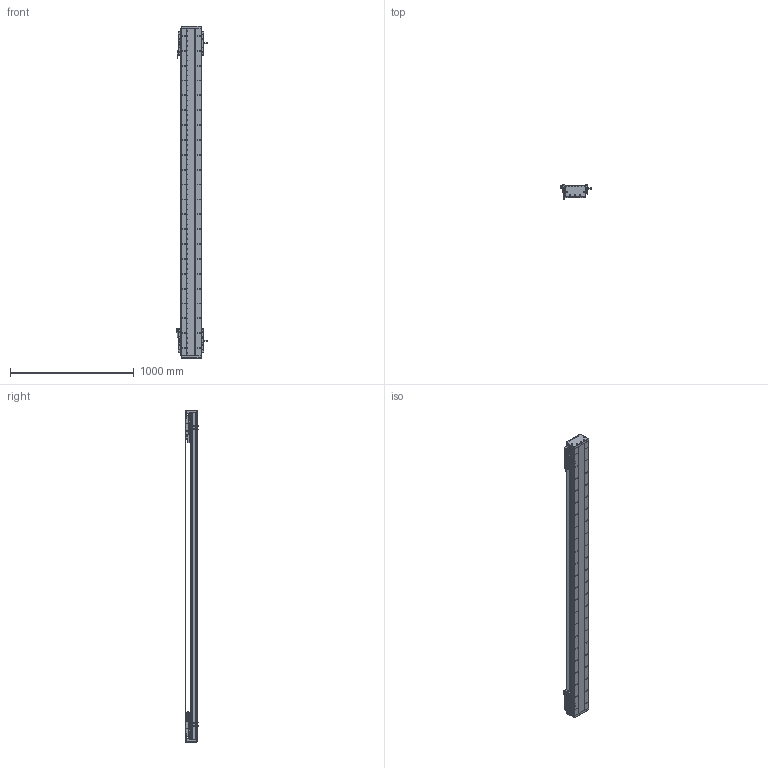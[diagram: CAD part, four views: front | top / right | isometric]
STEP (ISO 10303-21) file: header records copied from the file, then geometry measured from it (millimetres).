
FILE_DESCRIPTION (( 'STEP AP203' ), '1' );
FILE_NAME ('DA-C165-2-C2-T2180-C010-0.2 直线电机.STEP', '2023-05-11T08:27:27', ( '微软用户' ), ( '微软中国' ), 'SwSTEP 2.0', 'SolidWorks 2019', '' );
FILE_SCHEMA (( 'CONFIG_CONTROL_DESIGN' ));
Length unit declared in the file: millimetre
Products named in the file (22): 复件 DA165-GDLK-00 钢带拉块^复件 CU165钢带组件_DA-C165-C2-T-C010-0.2-N 直线电机; IU-CU165-L 菁釱絳寢; IU-CU165-L-00 菁釱_L2640; 葩璃 PM-T45^DA-C165-C2-T-C010-0.2-N 眻盄萇儂; 葩璃 DA95-GT-T-00^IU-CU165-L 菁釱絳寢_T; DA-C165-2-C2-T2180-C010-0.2 眻盄萇儂; 复件 XD-U-02L 磁栅尺^DA-C165-C2-T-C010-0.2-N 直线电机_T; 复件 DA126-GYP-ZJ-00 中间光电感应片^DA-C165-C2-T-C010-0.2-N 直线电机; 复件 DKW-HXJ-JY-00 缓冲橡胶^DA-C165-C2-T-C010-0.2-N 直线电机; 复件 DA165-GYP-00 光电感应片^DA-C165-C2-T-C010-0.2-N 直线电机; 复件 66338-1000-006-00 光电感应块^DA-C165-C2-T-C010-0.2-N 直线电机; 复件 六角薄螺母 M3^DA-C165-C2-T-C010-0.2-N 直线电机_GB_FASTENER_NUT_STNAB M3-C; 复件 DA95-HXJ-00 缓冲橡胶^DA-C165-C2-T-C010-0.2-N 直线电机; 复件 CU165钢带组件^DA-C165-C2-T-C010-0.2-N 直线电机; 葩璃 CKM01-W075-TRL^DA-C165-C2-T-C010-0.2-N 眻盄萇儂; 复件 CKM02-W075-C1C2-TP-3.0 一体电机-C2^DA-C165-C2-T-C010-0.2-N 直线电机; 复件 DA165-GDYK-00 钢带压块^复件 CU165钢带组件_DA-C165-C2-T-C010-0.2-N 直线电机; 复件 DA165-GD-1860-002-00 钢带盖板^复件 CU165钢带组件_DA-C165-C2-T-C010-0.2-N 直线电机; 珨极趙賑雄怢啣wf-C2; 葩璃 PM-Y45^DA-C165-C2-T-C010-0.2-N 眻盄萇儂; 复件 DA165-GD-DG-H-00 端盖^复件 CU165钢带组件_DA-C165-C2-T-C010-0.2-N 直线电机; 复件 DMA-010-0.2 读数头^DA-C165-C2-T-C010-0.2-N 直线电机
Assembly tree (43 placements, depth 3):
  DA-C165-2-C2-T2180-C010-0.2 眻盄萇儂
    IU-CU165-L 菁釱絳寢
      IU-CU165-L-00 菁釱_L2640
      葩璃 DA95-GT-T-00^IU-CU165-L 菁釱絳寢_T  x4
    复件 XD-U-02L 磁栅尺^DA-C165-C2-T-C010-0.2-N 直线电机_T
    葩璃 PM-T45^DA-C165-C2-T-C010-0.2-N 眻盄萇儂  x4
    葩璃 CKM01-W075-TRL^DA-C165-C2-T-C010-0.2-N 眻盄萇儂
    复件 CU165钢带组件^DA-C165-C2-T-C010-0.2-N 直线电机
      复件 DA165-GD-DG-H-00 端盖^复件 CU165钢带组件_DA-C165-C2-T-C010-0.2-N 直线电机  x2
      复件 DA165-GDYK-00 钢带压块^复件 CU165钢带组件_DA-C165-C2-T-C010-0.2-N 直线电机  x2
      复件 DA165-GD-1860-002-00 钢带盖板^复件 CU165钢带组件_DA-C165-C2-T-C010-0.2-N 直线电机
      复件 DA165-GDLK-00 钢带拉块^复件 CU165钢带组件_DA-C165-C2-T-C010-0.2-N 直线电机  x2
    复件 DA95-HXJ-00 缓冲橡胶^DA-C165-C2-T-C010-0.2-N 直线电机  x4
    复件 CKM02-W075-C1C2-TP-3.0 一体电机-C2^DA-C165-C2-T-C010-0.2-N 直线电机  x2
    复件 DMA-010-0.2 读数头^DA-C165-C2-T-C010-0.2-N 直线电机  x2
    复件 DA165-GYP-00 光电感应片^DA-C165-C2-T-C010-0.2-N 直线电机  x2
    复件 66338-1000-006-00 光电感应块^DA-C165-C2-T-C010-0.2-N 直线电机
    葩璃 PM-Y45^DA-C165-C2-T-C010-0.2-N 眻盄萇儂
    复件 DA126-GYP-ZJ-00 中间光电感应片^DA-C165-C2-T-C010-0.2-N 直线电机
    复件 DKW-HXJ-JY-00 缓冲橡胶^DA-C165-C2-T-C010-0.2-N 直线电机  x2
    复件 六角薄螺母 M3^DA-C165-C2-T-C010-0.2-N 直线电机_GB_FASTENER_NUT_STNAB M3-C  x6
    珨极趙賑雄怢啣wf-C2  x2
Bounding box: 247.2 x 111.45 x 2680 mm (x, y, z)
Volume: 16459780.7 mm3; surface area: 4778931.2 mm2
Topology: 119 solids, 119 shells, 5675 faces, 15954 edges, 10070 vertices
Faces by surface type: cylinder 3076, plane 1807, cone 704, torus 80, sphere 8
Entity records: 137012 total; most frequent: CARTESIAN_POINT 36607, ORIENTED_EDGE 20852, DIRECTION 20086, EDGE_CURVE 10426, AXIS2_PLACEMENT_3D 7628, VERTEX_POINT 6807, LINE 4830, VECTOR 4830
